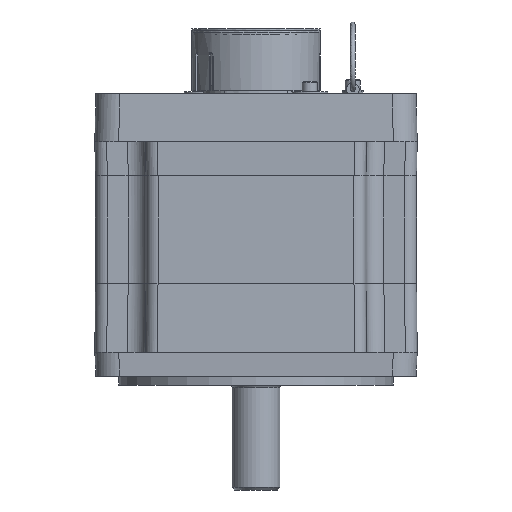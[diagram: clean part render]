
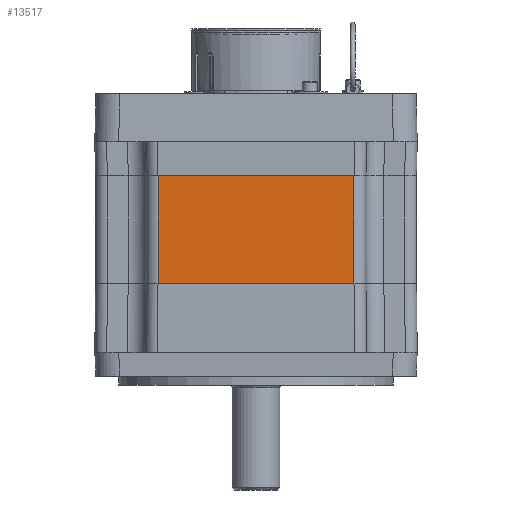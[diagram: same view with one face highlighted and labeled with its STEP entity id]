
A CAD part, front view. The second image highlights one B-rep face of the part: STEP entity #13517.
In plain terms, the highlighted planar face has unit normal (0, -1, 0).
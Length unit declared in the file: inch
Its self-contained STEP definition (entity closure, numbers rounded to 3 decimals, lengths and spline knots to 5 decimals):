
#13103=CARTESIAN_POINT('',(1.025,-1.68,0.725));
#13104=VERTEX_POINT('',#13103);
#13112=CARTESIAN_POINT('',(-1.025,-1.68,0.725));
#13113=VERTEX_POINT('',#13112);
#13114=CARTESIAN_POINT('',(1.025,-1.68,0.725));
#13115=DIRECTION('',(-1.0,0.0,0.0));
#13116=VECTOR('',#13115,2.05);
#13117=LINE('',#13114,#13116);
#13118=EDGE_CURVE('',#13104,#13113,#13117,.T.);
#13474=CARTESIAN_POINT('',(1.025,-1.68,1.845));
#13475=VERTEX_POINT('',#13474);
#13483=CARTESIAN_POINT('',(1.025,-1.68,1.845));
#13484=DIRECTION('',(0.0,0.0,-1.0));
#13485=VECTOR('',#13484,1.12);
#13486=LINE('',#13483,#13485);
#13487=EDGE_CURVE('',#13475,#13104,#13486,.T.);
#13494=CARTESIAN_POINT('',(1.15,-1.68,0.725));
#13495=DIRECTION('',(0.0,-1.0,0.0));
#13496=DIRECTION('',(0.0,0.0,-1.0));
#13497=AXIS2_PLACEMENT_3D('',#13494,#13495,#13496);
#13498=PLANE('',#13497);
#13499=CARTESIAN_POINT('',(-1.025,-1.68,1.845));
#13500=VERTEX_POINT('',#13499);
#13501=CARTESIAN_POINT('',(-1.025,-1.68,0.725));
#13502=DIRECTION('',(0.0,0.0,1.0));
#13503=VECTOR('',#13502,1.12);
#13504=LINE('',#13501,#13503);
#13505=EDGE_CURVE('',#13113,#13500,#13504,.T.);
#13506=ORIENTED_EDGE('',*,*,#13505,.F.);
#13507=ORIENTED_EDGE('',*,*,#13118,.F.);
#13508=ORIENTED_EDGE('',*,*,#13487,.F.);
#13509=CARTESIAN_POINT('',(1.025,-1.68,1.845));
#13510=DIRECTION('',(-1.0,0.0,0.0));
#13511=VECTOR('',#13510,2.05);
#13512=LINE('',#13509,#13511);
#13513=EDGE_CURVE('',#13475,#13500,#13512,.T.);
#13514=ORIENTED_EDGE('',*,*,#13513,.T.);
#13515=EDGE_LOOP('',(#13506,#13507,#13508,#13514));
#13516=FACE_OUTER_BOUND('',#13515,.T.);
#13517=ADVANCED_FACE('',(#13516),#13498,.T.);
